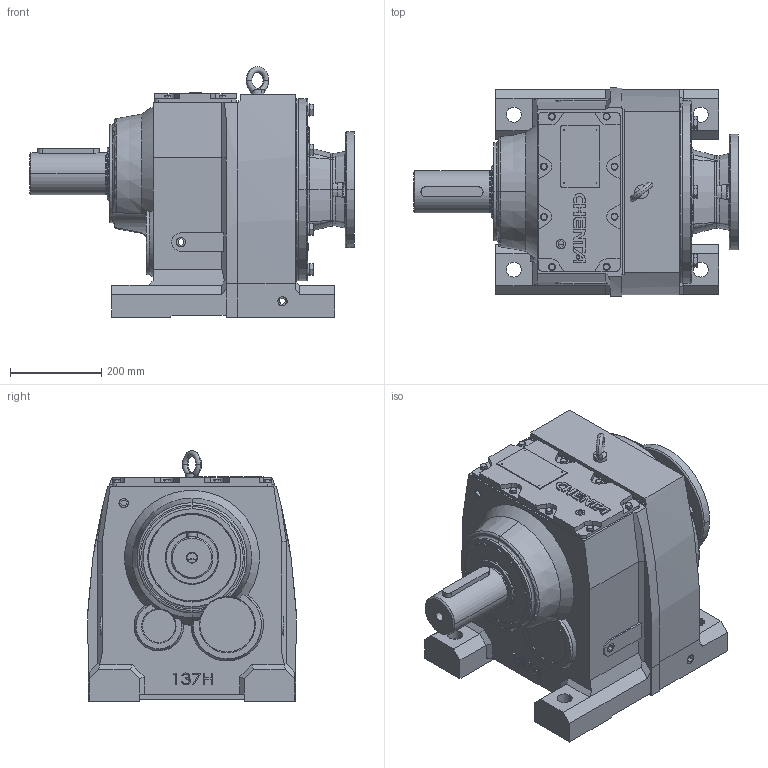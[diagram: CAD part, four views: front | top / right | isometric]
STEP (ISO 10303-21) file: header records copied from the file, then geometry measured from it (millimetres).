
FILE_DESCRIPTION (( 'STEP AP203' ), '1' );
FILE_NAME ('WINL137-254-6TC.STEP', '2013-09-26T10:17:01', ( 'User' ), ( 'Chenta' ), 'SwSTEP 2.0', 'SolidWorks 2011', '' );
FILE_SCHEMA (( 'CONFIG_CONTROL_DESIGN' ));
Length unit declared in the file: millimetre
Products named in the file (1): WINL137-254-6TC
Bounding box: 713 x 457.17 x 549.8 mm (x, y, z)
Surface area: 1706129.7 mm2 (no closed solid volume)
Topology: 0 solids, 59 shells, 888 faces, 2703 edges, 1861 vertices
Faces by surface type: plane 516, cylinder 174, cone 124, bspline 39, torus 35
Entity records: 36208 total; most frequent: CARTESIAN_POINT 12446, DIRECTION 4728, ORIENTED_EDGE 4695, EDGE_CURVE 2699, VERTEX_POINT 1861, VECTOR 1608, LINE 1608, AXIS2_PLACEMENT_3D 1560
